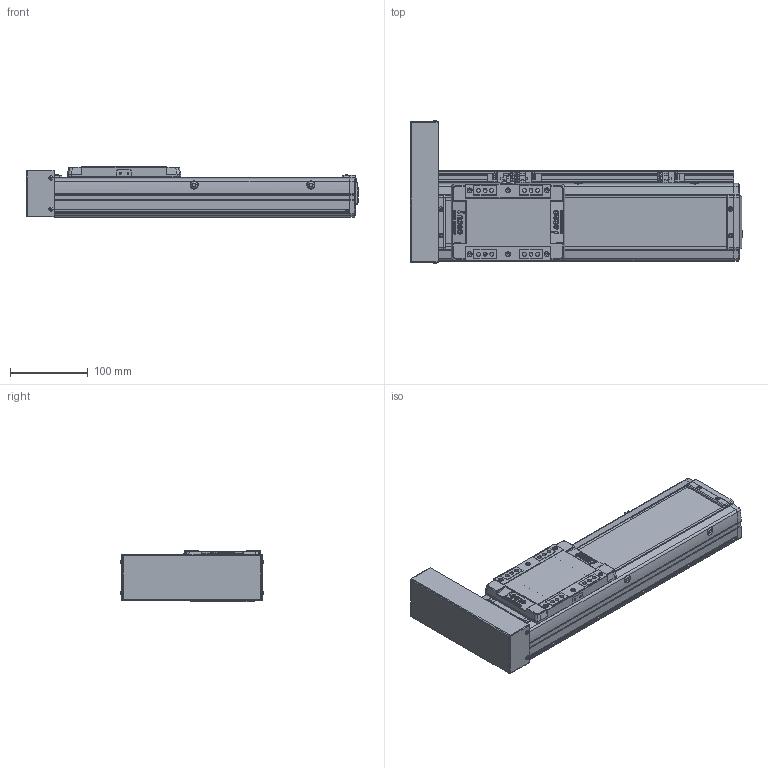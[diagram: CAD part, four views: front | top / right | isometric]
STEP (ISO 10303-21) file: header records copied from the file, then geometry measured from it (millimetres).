
FILE_DESCRIPTION(('STEP AP214'),'1');
FILE_NAME('Z:/Web/3D/SAN100/SAN100 양산용 (STEP)/SAN100ㅁㅁ-200PL+3SL.stp','2013-04-25T00:55:16',(' '),(' '),'Spatial InterOp 3D',' ',' ');
FILE_SCHEMA(('automotive_design'));
Length unit declared in the file: millimetre
Products named in the file (49): SUS COVER; SFX-SAN100; RRCV-SAN100; 스크루 : Round - M4.0 x 10.0; M3.0 x 6.0; 스크루 : Round - M3.0 x 6.0; FRBL-SAN100; SLBL-SAN100; SLCV-SAN100; 스크루 : Countersunk - M3.0 x 6.0; BASE; 스크루 : Round - M5.0 x 6.0; BTCV-SAN65; BHCS M3 X 6L; SGD-SAN100; SRL-16x17-380L; EE-SX674; SBK-SX674-352
Bounding box: 426.5 x 184.13 x 66 mm (x, y, z)
Volume: 1589520.4 mm3; surface area: 409458.1 mm2
Topology: 49 solids, 50 shells, 2329 faces, 6060 edges, 3929 vertices
Faces by surface type: plane 1278, cylinder 771, cone 182, sphere 64, torus 18, bspline 16
Entity records: 91740 total; most frequent: CARTESIAN_POINT 13613, DIRECTION 12747, ORIENTED_EDGE 11964, EDGE_CURVE 5982, AXIS2_PLACEMENT_3D 4484, VERTEX_POINT 3929, LINE 3779, VECTOR 3779
